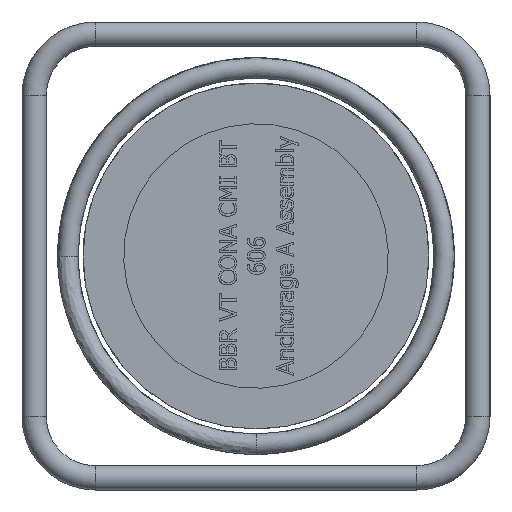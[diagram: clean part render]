
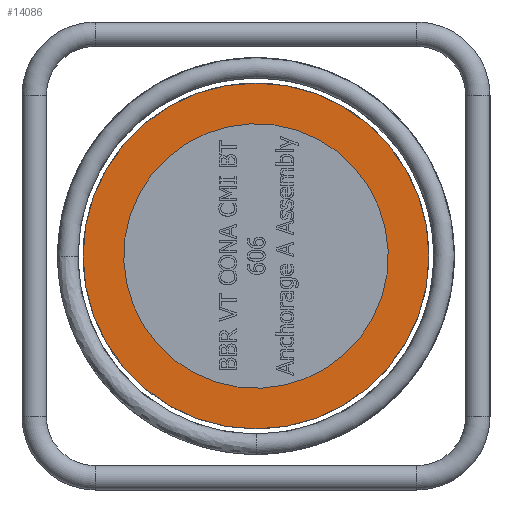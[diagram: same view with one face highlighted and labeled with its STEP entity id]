
A CAD part, left-side view. The second image highlights one B-rep face of the part: STEP entity #14086.
In plain terms, the highlighted planar face has unit normal (-1, 0, 0).
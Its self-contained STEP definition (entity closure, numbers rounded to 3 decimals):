
#97=FACE_BOUND('',#5027,.T.);
#1358=PLANE('',#14732);
#4223=FACE_OUTER_BOUND('',#5026,.T.);
#5026=EDGE_LOOP('',(#12324));
#5027=EDGE_LOOP('',(#12325));
#5197=CIRCLE('',#14626,65.);
#5229=CIRCLE('',#14683,85.);
#6511=VERTEX_POINT('',#26520);
#6558=VERTEX_POINT('',#27119);
#8380=EDGE_CURVE('',#6511,#6511,#5197,.T.);
#8453=EDGE_CURVE('',#6558,#6558,#5229,.T.);
#12324=ORIENTED_EDGE('',*,*,#8453,.T.);
#12325=ORIENTED_EDGE('',*,*,#8380,.T.);
#14086=ADVANCED_FACE('',(#4223,#97),#1358,.T.);
#14626=AXIS2_PLACEMENT_3D('',#26521,#16816,#16817);
#14683=AXIS2_PLACEMENT_3D('',#27120,#16947,#16948);
#14732=AXIS2_PLACEMENT_3D('',#27544,#17051,#17052);
#16816=DIRECTION('center_axis',(1.,0.,0.));
#16817=DIRECTION('ref_axis',(0.,0.999,-0.038));
#16947=DIRECTION('center_axis',(-1.,0.,0.));
#16948=DIRECTION('ref_axis',(0.,0.,
1.));
#17051=DIRECTION('center_axis',(-1.,0.,0.));
#17052=DIRECTION('ref_axis',(0.,1.,0.));
#26520=CARTESIAN_POINT('',(50.,-64.953,2.481));
#26521=CARTESIAN_POINT('Origin',(50.,0.,0.));
#27119=CARTESIAN_POINT('',(50.,0.,-85.));
#27120=CARTESIAN_POINT('Origin',(50.,0.,
0.));
#27544=CARTESIAN_POINT('Origin',(50.,0.,
66.));
